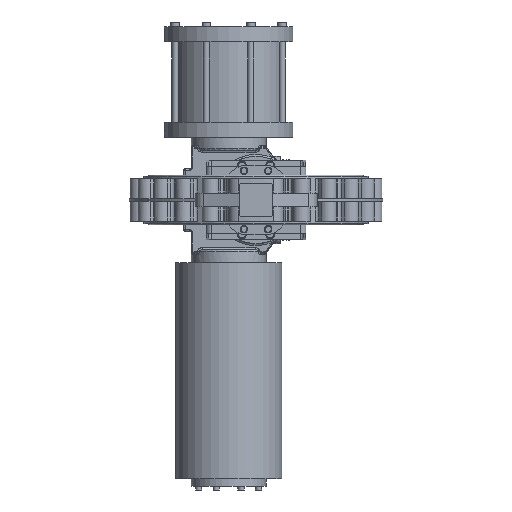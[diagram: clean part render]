
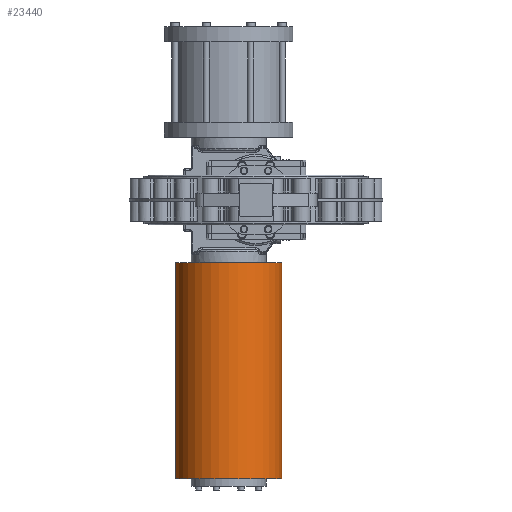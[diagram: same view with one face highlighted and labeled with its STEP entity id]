
A CAD part, front view. The second image highlights one B-rep face of the part: STEP entity #23440.
In plain terms, the highlighted cylindrical face has radius 213 mm (diameter 426 mm), a partial arc.
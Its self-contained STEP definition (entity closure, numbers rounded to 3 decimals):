
#536 = AXIS2_PLACEMENT_3D ( 'NONE', #9416, #40866, #16968 ) ;
#1321 = EDGE_CURVE ( 'NONE', #5486, #44073, #28391, .T. ) ;
#1984 = CIRCLE ( 'NONE', #536, 213. ) ;
#2193 = VECTOR ( 'NONE', #8964, 1000. ) ;
#3576 = CARTESIAN_POINT ( 'NONE',  ( 252., 0., 0. ) ) ;
#3949 = DIRECTION ( 'NONE',  ( 1., 0., 0. ) ) ;
#4244 = DIRECTION ( 'NONE',  ( 1., 0., 0. ) ) ;
#4414 = CARTESIAN_POINT ( 'NONE',  ( 1120., 0., 213. ) ) ;
#5208 = ORIENTED_EDGE ( 'NONE', *, *, #38881, .F. ) ;
#5486 = VERTEX_POINT ( 'NONE', #24038 ) ;
#8891 = VERTEX_POINT ( 'NONE', #4414 ) ;
#8964 = DIRECTION ( 'NONE',  ( 1., 0., 0. ) ) ;
#9416 = CARTESIAN_POINT ( 'NONE',  ( 1120., 0., 0. ) ) ;
#10080 = ORIENTED_EDGE ( 'NONE', *, *, #1321, .T. ) ;
#10956 = VERTEX_POINT ( 'NONE', #42839 ) ;
#16058 = DIRECTION ( 'NONE',  ( 0., 0., -1. ) ) ;
#16968 = DIRECTION ( 'NONE',  ( 0., 0., -1. ) ) ;
#17849 = EDGE_LOOP ( 'NONE', ( #5208, #10080, #37483, #26738 ) ) ;
#20542 = AXIS2_PLACEMENT_3D ( 'NONE', #3576, #4244, #31446 ) ;
#20873 = FACE_OUTER_BOUND ( 'NONE', #17849, .T. ) ;
#22901 = EDGE_CURVE ( 'NONE', #8891, #10956, #1984, .T. ) ;
#23440 = ADVANCED_FACE ( 'NONE', ( #20873 ), #40146, .T. ) ;
#24038 = CARTESIAN_POINT ( 'NONE',  ( 252., 0., 213. ) ) ;
#26738 = ORIENTED_EDGE ( 'NONE', *, *, #22901, .F. ) ;
#28391 = CIRCLE ( 'NONE', #20542, 213. ) ;
#29015 = CARTESIAN_POINT ( 'NONE',  ( 0., 0., 213. ) ) ;
#31446 = DIRECTION ( 'NONE',  ( 0., 0., -1. ) ) ;
#32797 = EDGE_CURVE ( 'NONE', #44073, #10956, #39700, .T. ) ;
#34509 = CARTESIAN_POINT ( 'NONE',  ( 0., 0., 0. ) ) ;
#36284 = VECTOR ( 'NONE', #40140, 1000. ) ;
#36332 = CARTESIAN_POINT ( 'NONE',  ( 0., 0., -213. ) ) ;
#36619 = CARTESIAN_POINT ( 'NONE',  ( 252., 0., -213. ) ) ;
#37483 = ORIENTED_EDGE ( 'NONE', *, *, #32797, .T. ) ;
#38358 = AXIS2_PLACEMENT_3D ( 'NONE', #34509, #3949, #16058 ) ;
#38881 = EDGE_CURVE ( 'NONE', #5486, #8891, #43096, .T. ) ;
#39700 = LINE ( 'NONE', #36332, #36284 ) ;
#40140 = DIRECTION ( 'NONE',  ( 1., 0., 0. ) ) ;
#40146 = CYLINDRICAL_SURFACE ( 'NONE', #38358, 213. ) ;
#40866 = DIRECTION ( 'NONE',  ( 1., 0., 0. ) ) ;
#42839 = CARTESIAN_POINT ( 'NONE',  ( 1120., 0., -213. ) ) ;
#43096 = LINE ( 'NONE', #29015, #2193 ) ;
#44073 = VERTEX_POINT ( 'NONE', #36619 ) ;
